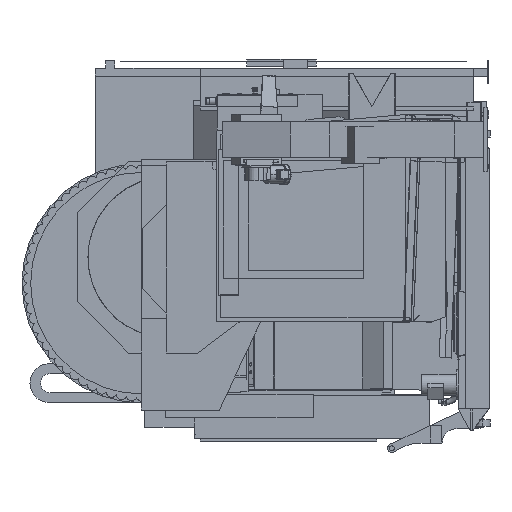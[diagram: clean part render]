
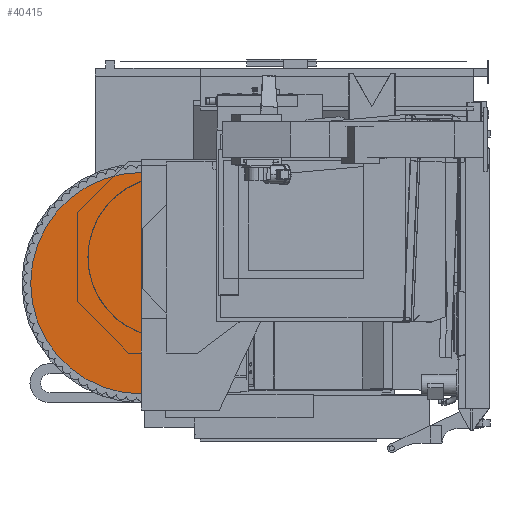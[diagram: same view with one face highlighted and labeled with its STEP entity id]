
A CAD part, left-side view. The second image highlights one B-rep face of the part: STEP entity #40415.
In plain terms, the highlighted planar face has unit normal (-1, 0, 0).
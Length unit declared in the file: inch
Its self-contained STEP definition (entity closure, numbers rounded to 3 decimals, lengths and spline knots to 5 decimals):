
#997 = VECTOR ( 'NONE', #9497, 39.37008 ) ;
#2419 = AXIS2_PLACEMENT_3D ( 'NONE', #179652, #201641, #13614 ) ;
#2882 = CARTESIAN_POINT ( 'NONE',  ( -26.70729, 50.27715, 1.6067 ) ) ;
#4256 = ORIENTED_EDGE ( 'NONE', *, *, #107702, .T. ) ;
#9159 = VERTEX_POINT ( 'NONE', #10882 ) ;
#9497 = DIRECTION ( 'NONE',  ( 0., -1., 0.029 ) ) ;
#10882 = CARTESIAN_POINT ( 'NONE',  ( -26.70729, 69.46364, 1.60639 ) ) ;
#13614 = DIRECTION ( 'NONE',  ( 0., 0., -1. ) ) ;
#19129 = ORIENTED_EDGE ( 'NONE', *, *, #60760, .T. ) ;
#23294 = DIRECTION ( 'NONE',  ( 0., -0.999, 0.048 ) ) ;
#23737 = AXIS2_PLACEMENT_3D ( 'NONE', #253995, #186826, #210106 ) ;
#26095 = CARTESIAN_POINT ( 'NONE',  ( -26.70729, 69.51802, 39.23043 ) ) ;
#27494 = ORIENTED_EDGE ( 'NONE', *, *, #56923, .F. ) ;
#31221 = EDGE_LOOP ( 'NONE', ( #27494, #136794, #236385, #267234, #226724, #4256, #134936, #205254, #220335, #19129, #222753 ) ) ;
#35317 = LINE ( 'NONE', #101224, #66515 ) ;
#35814 = VECTOR ( 'NONE', #23294, 39.37008 ) ;
#38081 = DIRECTION ( 'NONE',  ( 0., -1., 0. ) ) ;
#38168 = DIRECTION ( 'NONE',  ( 0., 0., 1. ) ) ;
#40415 = ADVANCED_FACE ( 'NONE', ( #103156 ), #170199, .T. ) ;
#41432 = DIRECTION ( 'NONE',  ( 0., -0.05, 0.999 ) ) ;
#42620 = CARTESIAN_POINT ( 'NONE',  ( -26.70729, 50.27715, 1.6905 ) ) ;
#43420 = CARTESIAN_POINT ( 'NONE',  ( -26.70729, 50.27715, 1.6067 ) ) ;
#48699 = VECTOR ( 'NONE', #41432, 39.37008 ) ;
#54198 = CARTESIAN_POINT ( 'NONE',  ( -26.70729, 69.53682, -17.78703 ) ) ;
#54344 = VECTOR ( 'NONE', #216285, 39.37008 ) ;
#54847 = VECTOR ( 'NONE', #199809, 39.37008 ) ;
#55919 = LINE ( 'NONE', #139600, #196579 ) ;
#56126 = CARTESIAN_POINT ( 'NONE',  ( -26.70729, 69.45302, 1.6067 ) ) ;
#56451 = EDGE_CURVE ( 'NONE', #75384, #217758, #245068, .T. ) ;
#56923 = EDGE_CURVE ( 'NONE', #79162, #246672, #226112, .T. ) ;
#60760 = EDGE_CURVE ( 'NONE', #78630, #65385, #35317, .T. ) ;
#63169 = LINE ( 'NONE', #190742, #35814 ) ;
#65163 = EDGE_CURVE ( 'NONE', #246672, #65385, #269919, .T. ) ;
#65385 = VERTEX_POINT ( 'NONE', #267045 ) ;
#66515 = VECTOR ( 'NONE', #38081, 39.37008 ) ;
#74029 = EDGE_CURVE ( 'NONE', #127074, #9159, #63169, .T. ) ;
#75384 = VERTEX_POINT ( 'NONE', #42620 ) ;
#78630 = VERTEX_POINT ( 'NONE', #2882 ) ;
#79162 = VERTEX_POINT ( 'NONE', #54198 ) ;
#98254 = CARTESIAN_POINT ( 'NONE',  ( -26.70729, 50.27715, 1.6905 ) ) ;
#101224 = CARTESIAN_POINT ( 'NONE',  ( -26.70729, 38.93342, 1.6067 ) ) ;
#103156 = FACE_OUTER_BOUND ( 'NONE', #31221, .T. ) ;
#106544 = LINE ( 'NONE', #190253, #242399 ) ;
#107702 = EDGE_CURVE ( 'NONE', #181133, #192552, #188246, .T. ) ;
#118536 = EDGE_CURVE ( 'NONE', #217758, #78630, #257486, .T. ) ;
#127074 = VERTEX_POINT ( 'NONE', #265672 ) ;
#134936 = ORIENTED_EDGE ( 'NONE', *, *, #188632, .T. ) ;
#136794 = ORIENTED_EDGE ( 'NONE', *, *, #153443, .T. ) ;
#137053 = CARTESIAN_POINT ( 'NONE',  ( -26.70729, 69.45302, 1.6067 ) ) ;
#139060 = EDGE_CURVE ( 'NONE', #237789, #181133, #55919, .T. ) ;
#139600 = CARTESIAN_POINT ( 'NONE',  ( -26.70729, 69.45302, 1.6067 ) ) ;
#139621 = CARTESIAN_POINT ( 'NONE',  ( -26.70729, 50.27715, 1.6307 ) ) ;
#140880 = VECTOR ( 'NONE', #38168, 39.37008 ) ;
#142798 = DIRECTION ( 'NONE',  ( 0., 0., -1. ) ) ;
#145139 = CARTESIAN_POINT ( 'NONE',  ( -26.70729, 69.53682, 0.8067 ) ) ;
#153443 = EDGE_CURVE ( 'NONE', #79162, #127074, #226251, .T. ) ;
#154908 = EDGE_CURVE ( 'NONE', #9159, #237789, #260695, .T. ) ;
#163353 = CARTESIAN_POINT ( 'NONE',  ( -26.70729, 69.51802, 10.7217 ) ) ;
#169612 = DIRECTION ( 'NONE',  ( 0., -1., 0. ) ) ;
#170199 = PLANE ( 'NONE',  #23737 ) ;
#179652 = CARTESIAN_POINT ( 'NONE',  ( -26.70729, 69.51802, 10.7217 ) ) ;
#181133 = VERTEX_POINT ( 'NONE', #261172 ) ;
#186826 = DIRECTION ( 'NONE',  ( -1., 0., 0. ) ) ;
#188246 = LINE ( 'NONE', #252771, #48699 ) ;
#188632 = EDGE_CURVE ( 'NONE', #192552, #75384, #106544, .T. ) ;
#190253 = CARTESIAN_POINT ( 'NONE',  ( -26.70729, 38.87362, 1.6905 ) ) ;
#190742 = CARTESIAN_POINT ( 'NONE',  ( -26.70729, 69.53682, 1.60286 ) ) ;
#192552 = VERTEX_POINT ( 'NONE', #262250 ) ;
#196579 = VECTOR ( 'NONE', #223352, 39.37008 ) ;
#199809 = DIRECTION ( 'NONE',  ( 0., 0., -1. ) ) ;
#201641 = DIRECTION ( 'NONE',  ( 1., 0., 0. ) ) ;
#205254 = ORIENTED_EDGE ( 'NONE', *, *, #56451, .T. ) ;
#210106 = DIRECTION ( 'NONE',  ( 0., 0., 1. ) ) ;
#212967 = AXIS2_PLACEMENT_3D ( 'NONE', #163353, #269111, #142798 ) ;
#216285 = DIRECTION ( 'NONE',  ( 0., 0., -1. ) ) ;
#217758 = VERTEX_POINT ( 'NONE', #139621 ) ;
#220335 = ORIENTED_EDGE ( 'NONE', *, *, #118536, .T. ) ;
#222753 = ORIENTED_EDGE ( 'NONE', *, *, #65163, .F. ) ;
#223352 = DIRECTION ( 'NONE',  ( 0., -0.029, 1. ) ) ;
#226112 = CIRCLE ( 'NONE', #212967, 28.50873 ) ;
#226251 = LINE ( 'NONE', #145139, #140880 ) ;
#226724 = ORIENTED_EDGE ( 'NONE', *, *, #139060, .T. ) ;
#236385 = ORIENTED_EDGE ( 'NONE', *, *, #74029, .T. ) ;
#237789 = VERTEX_POINT ( 'NONE', #137053 ) ;
#242399 = VECTOR ( 'NONE', #169612, 39.37008 ) ;
#245068 = LINE ( 'NONE', #98254, #54847 ) ;
#246672 = VERTEX_POINT ( 'NONE', #26095 ) ;
#252771 = CARTESIAN_POINT ( 'NONE',  ( -26.70729, 69.45251, 1.62384 ) ) ;
#253995 = CARTESIAN_POINT ( 'NONE',  ( -26.70729, 69.51802, 10.7217 ) ) ;
#257486 = LINE ( 'NONE', #43420, #54344 ) ;
#260695 = LINE ( 'NONE', #56126, #997 ) ;
#261172 = CARTESIAN_POINT ( 'NONE',  ( -26.70729, 69.45251, 1.62384 ) ) ;
#262250 = CARTESIAN_POINT ( 'NONE',  ( -26.70729, 69.44918, 1.6905 ) ) ;
#265672 = CARTESIAN_POINT ( 'NONE',  ( -26.70729, 69.53682, 1.60286 ) ) ;
#267045 = CARTESIAN_POINT ( 'NONE',  ( -26.70729, 42.50571, 1.6067 ) ) ;
#267234 = ORIENTED_EDGE ( 'NONE', *, *, #154908, .T. ) ;
#269111 = DIRECTION ( 'NONE',  ( 1., 0., 0. ) ) ;
#269919 = CIRCLE ( 'NONE', #2419, 28.50873 ) ;
